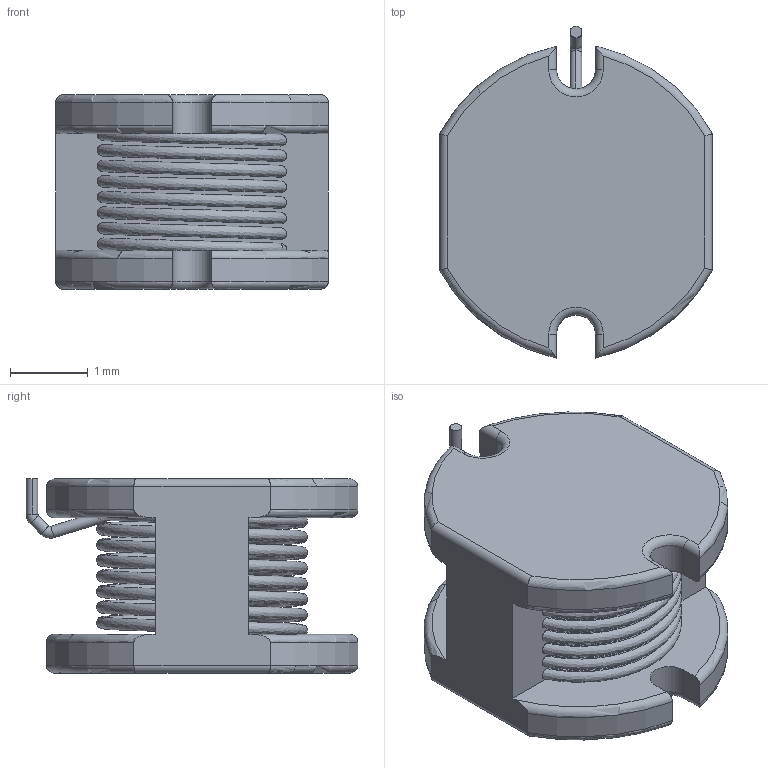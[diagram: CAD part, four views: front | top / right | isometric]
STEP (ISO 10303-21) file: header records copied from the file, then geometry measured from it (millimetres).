
FILE_DESCRIPTION (( 'STEP AP214' ), '1' );
FILE_NAME ('TCK-130.STEP', '2023-07-06T19:10:10', ( '' ), ( '' ), 'SwSTEP 2.0', 'SolidWorks 2022', '' );
FILE_SCHEMA (( 'AUTOMOTIVE_DESIGN' ));
Length unit declared in the file: millimetre
Products named in the file (1): TCK-130
Bounding box: 3.5 x 4.26 x 2.5 mm (x, y, z)
Volume: 18.1 mm3; surface area: 81 mm2
Topology: 1 solids, 1 shells, 108 faces, 294 edges, 186 vertices
Faces by surface type: bspline 32, cylinder 30, torus 24, plane 22
Entity records: 27352 total; most frequent: CARTESIAN_POINT 24419, ORIENTED_EDGE 588, DIRECTION 382, EDGE_CURVE 294, VERTEX_POINT 186, AXIS2_PLACEMENT_3D 149, EDGE_LOOP 136, ADVANCED_FACE 108
